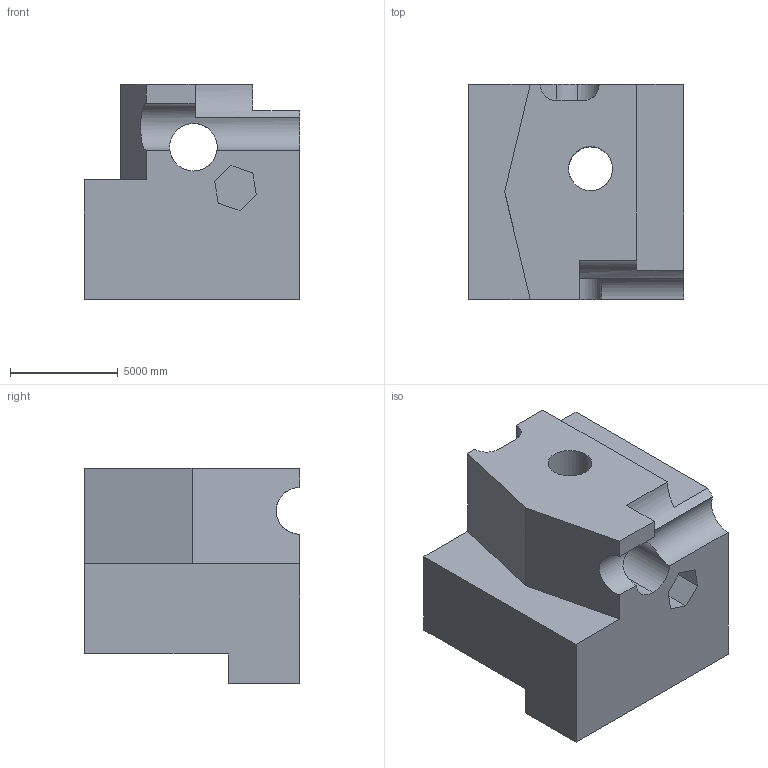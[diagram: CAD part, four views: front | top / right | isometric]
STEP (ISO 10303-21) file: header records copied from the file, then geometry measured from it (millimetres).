
FILE_DESCRIPTION (( 'STEP AP203' ), '1' );
FILE_NAME ('964.STEP', '2022-07-29T14:44:56', ( 'user' ), ( '' ), 'SwSTEP 2.0', 'SolidWorks 2021', '' );
FILE_SCHEMA (( 'CONFIG_CONTROL_DESIGN' ));
Length unit declared in the file: centimetre
Products named in the file (1): 964
Bounding box: 10000 x 10000 x 10000 mm (x, y, z)
Volume: 618230132406.5 mm3; surface area: 699576590.1 mm2
Topology: 1 solids, 1 shells, 42 faces, 126 edges, 84 vertices
Faces by surface type: plane 32, cylinder 10
Entity records: 2351 total; most frequent: CARTESIAN_POINT 1138, ORIENTED_EDGE 252, DIRECTION 216, EDGE_CURVE 126, VECTOR 94, LINE 94, VERTEX_POINT 84, AXIS2_PLACEMENT_3D 61
